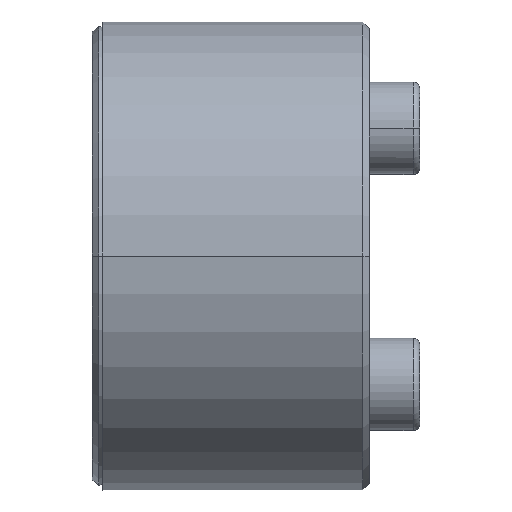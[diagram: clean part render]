
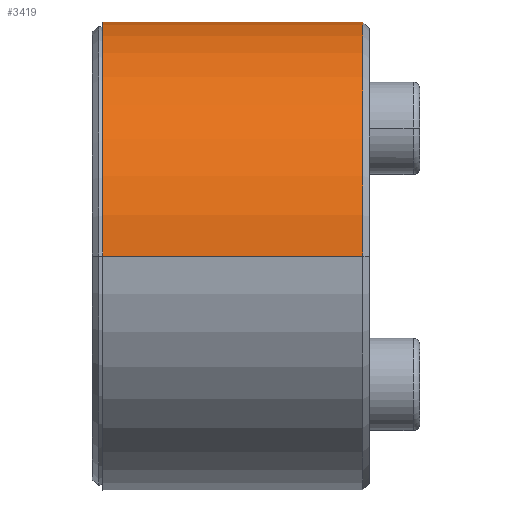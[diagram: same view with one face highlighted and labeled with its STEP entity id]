
A CAD part, top view. The second image highlights one B-rep face of the part: STEP entity #3419.
In plain terms, the highlighted cylindrical face has radius 11 mm (diameter 22 mm), a partial arc.
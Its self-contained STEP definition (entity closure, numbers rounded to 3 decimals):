
#10 = EDGE_CURVE ( 'NONE', #4165, #2556, #2326, .T. ) ;
#46 = DIRECTION ( 'NONE',  ( -1., 0., 0. ) ) ;
#177 = AXIS2_PLACEMENT_3D ( 'NONE', #471, #46, #805 ) ;
#207 = DIRECTION ( 'NONE',  ( 1., 0., 0. ) ) ;
#253 = EDGE_CURVE ( 'NONE', #1266, #4165, #1977, .T. ) ;
#420 = CARTESIAN_POINT ( 'NONE',  ( 0.491, 0., -11. ) ) ;
#471 = CARTESIAN_POINT ( 'NONE',  ( 12.691, 0., 0. ) ) ;
#472 = CIRCLE ( 'NONE', #2976, 11. ) ;
#767 = ORIENTED_EDGE ( 'NONE', *, *, #253, .T. ) ;
#786 = CARTESIAN_POINT ( 'NONE',  ( 12.691, 0., 11. ) ) ;
#805 = DIRECTION ( 'NONE',  ( 0., -0.996, 0.091 ) ) ;
#1198 = DIRECTION ( 'NONE',  ( -1., 0., 0. ) ) ;
#1266 = VERTEX_POINT ( 'NONE', #3193 ) ;
#1267 = LINE ( 'NONE', #1991, #1685 ) ;
#1598 = CARTESIAN_POINT ( 'NONE',  ( 12.691, 0., -11. ) ) ;
#1685 = VECTOR ( 'NONE', #4351, 1000. ) ;
#1872 = VERTEX_POINT ( 'NONE', #420 ) ;
#1953 = CARTESIAN_POINT ( 'NONE',  ( 0.491, 0., 11. ) ) ;
#1977 = LINE ( 'NONE', #1953, #2544 ) ;
#1991 = CARTESIAN_POINT ( 'NONE',  ( 0.491, 0., -11. ) ) ;
#2280 = DIRECTION ( 'NONE',  ( 0., -0.996, 0.091 ) ) ;
#2326 = CIRCLE ( 'NONE', #177, 11. ) ;
#2365 = EDGE_LOOP ( 'NONE', ( #2743, #3250, #767, #2646 ) ) ;
#2531 = EDGE_CURVE ( 'NONE', #1266, #1872, #472, .T. ) ;
#2544 = VECTOR ( 'NONE', #4339, 1000. ) ;
#2549 = DIRECTION ( 'NONE',  ( 0., 0., 1. ) ) ;
#2556 = VERTEX_POINT ( 'NONE', #1598 ) ;
#2646 = ORIENTED_EDGE ( 'NONE', *, *, #10, .T. ) ;
#2743 = ORIENTED_EDGE ( 'NONE', *, *, #3628, .F. ) ;
#2975 = FACE_OUTER_BOUND ( 'NONE', #2365, .T. ) ;
#2976 = AXIS2_PLACEMENT_3D ( 'NONE', #4322, #1198, #2280 ) ;
#3193 = CARTESIAN_POINT ( 'NONE',  ( 0.491, 0., 11. ) ) ;
#3250 = ORIENTED_EDGE ( 'NONE', *, *, #2531, .F. ) ;
#3270 = CYLINDRICAL_SURFACE ( 'NONE', #4178, 11. ) ;
#3419 = ADVANCED_FACE ( 'NONE', ( #2975 ), #3270, .T. ) ;
#3628 = EDGE_CURVE ( 'NONE', #1872, #2556, #1267, .T. ) ;
#3941 = CARTESIAN_POINT ( 'NONE',  ( 0.491, 0., 0. ) ) ;
#4165 = VERTEX_POINT ( 'NONE', #786 ) ;
#4178 = AXIS2_PLACEMENT_3D ( 'NONE', #3941, #207, #2549 ) ;
#4322 = CARTESIAN_POINT ( 'NONE',  ( 0.491, 0., 0. ) ) ;
#4339 = DIRECTION ( 'NONE',  ( 1., 0., 0. ) ) ;
#4351 = DIRECTION ( 'NONE',  ( 1., 0., 0. ) ) ;
